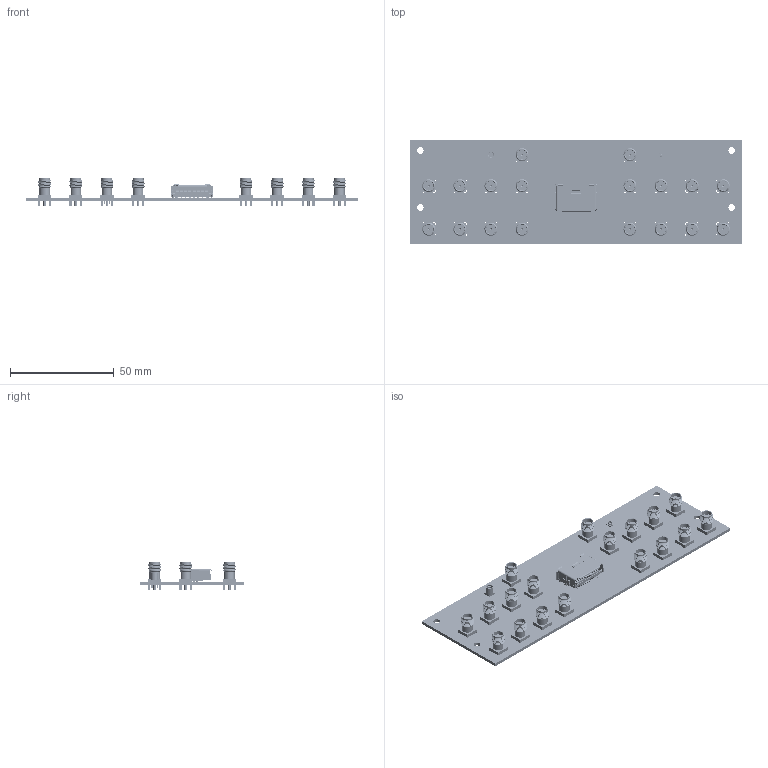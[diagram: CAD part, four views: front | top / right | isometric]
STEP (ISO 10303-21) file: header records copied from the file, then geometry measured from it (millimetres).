
FILE_DESCRIPTION(('KiCad electronic assembly'),'2;1');
FILE_NAME('SMT116-SMA-8-DIF.step','2026-02-03T17:00:05',('Pcbnew'),( 'Kicad'),'Open CASCADE STEP processor 7.8','KiCad to STEP converter' ,'Unknown');
FILE_SCHEMA(('AUTOMOTIVE_DESIGN { 1 0 10303 214 1 1 1 1 }'));
Length unit declared in the file: millimetre
Products named in the file (20): SMT116-SMA-8-DIF 1; 901-144; MMCX_Molex_73415-1471_Vertical; U.FL_Molex_MCRF_73412-0110_Vertical; COMPOUND; ARF6-16-S-RA-TR; ARF6-16_socket; ARF6-16_shield; C-494-16; C-494-16_2; C-495-16; IM-C-495-16; C-495-16_2; SMT116-SMA-8-DIF_copper; SMT116-SMA-8-DIF_pad; SMT116-SMA-8-DIF_via; SMT116-SMA-8-DIF_silkscreen; SMT116-SMA-8-DIF_soldermask; SMT116-SMA-8-DIF_PCB
Assembly tree (36 placements, depth 3):
  SMT116-SMA-8-DIF 1
    901-144  x18
    MMCX_Molex_73415-1471_Vertical
    U.FL_Molex_MCRF_73412-0110_Vertical
      COMPOUND
      COMPOUND
    ARF6-16-S-RA-TR
      ARF6-16_socket
      ARF6-16_shield
      C-494-16
      C-494-16_2
      C-495-16
      IM-C-495-16
      C-495-16_2
    SMT116-SMA-8-DIF_copper
    SMT116-SMA-8-DIF_pad
    SMT116-SMA-8-DIF_via
    SMT116-SMA-8-DIF_silkscreen
    SMT116-SMA-8-DIF_soldermask
    SMT116-SMA-8-DIF_PCB
Bounding box: 160 x 50 x 13.46 mm (x, y, z)
Volume: 17067 mm3; surface area: 72103.8 mm2
Topology: 693 solids, 1097 shells, 16582 faces, 48857 edges, 34386 vertices
Faces by surface type: plane 10784, cylinder 5435, cone 190, bspline 168, torus 5
Full cylindrical faces by diameter (mm): 0.275 x498, 0.3 x249, 0.71 x2, 0.78 x6, 0.79 x15, 0.8 x1, 0.83 x4, 0.84 x10, 0.95 x2, 1.24 x10, 1.338 x4, 1.45 x54, 1.458 x2, 1.5 x36, 1.65 x217, 1.7 x144, 2.05 x36, 2.25 x144, 2.41 x1, 2.54 x1, 2.88 x1, 3.01 x1, 3.06 x18, 3.15 x20, 3.175 x8, 3.2 x8, 3.51 x1, 3.6 x8, 6.4 x8
Entity records: 529797 total; most frequent: CARTESIAN_POINT 96216, DIRECTION 88348, ORIENTED_EDGE 84948, EDGE_CURVE 45405, LINE 32416, VECTOR 32416, VERTEX_POINT 32144, AXIS2_PLACEMENT_3D 27966
